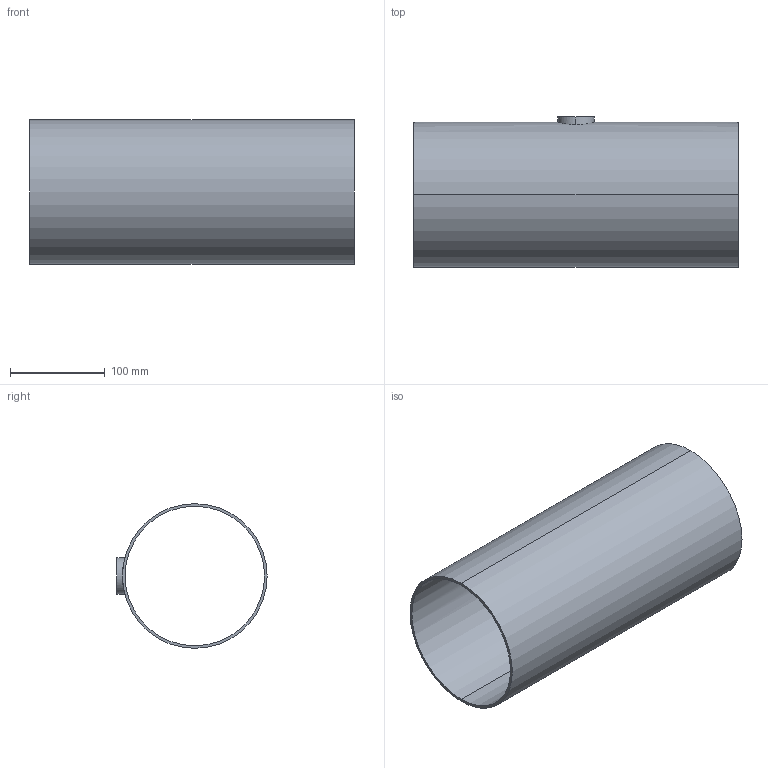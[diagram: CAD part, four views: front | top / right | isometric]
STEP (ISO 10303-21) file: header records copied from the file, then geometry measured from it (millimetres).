
FILE_DESCRIPTION (( 'STEP AP214' ), '1' );
FILE_NAME ('TEG7RS6L6.0x1.5-...STEP', '2016-05-24T11:25:21', ( 'eran' ), ( '' ), 'SwSTEP 2.0', 'SolidWorks 2016', '' );
FILE_SCHEMA (( 'AUTOMOTIVE_DESIGN' ));
Length unit declared in the file: millimetre
Products named in the file (1): TEG7RS6L6.0x1.5-..
Bounding box: 342 x 158.3 x 152.4 mm (x, y, z)
Volume: 443992.8 mm3; surface area: 324130.5 mm2
Topology: 1 solids, 1 shells, 11 faces, 24 edges, 16 vertices
Faces by surface type: cylinder 8, plane 3
Entity records: 548 total; most frequent: CARTESIAN_POINT 256, DIRECTION 56, ORIENTED_EDGE 48, AXIS2_PLACEMENT_3D 24, EDGE_CURVE 24, EDGE_LOOP 16, VERTEX_POINT 16, CIRCLE 12
